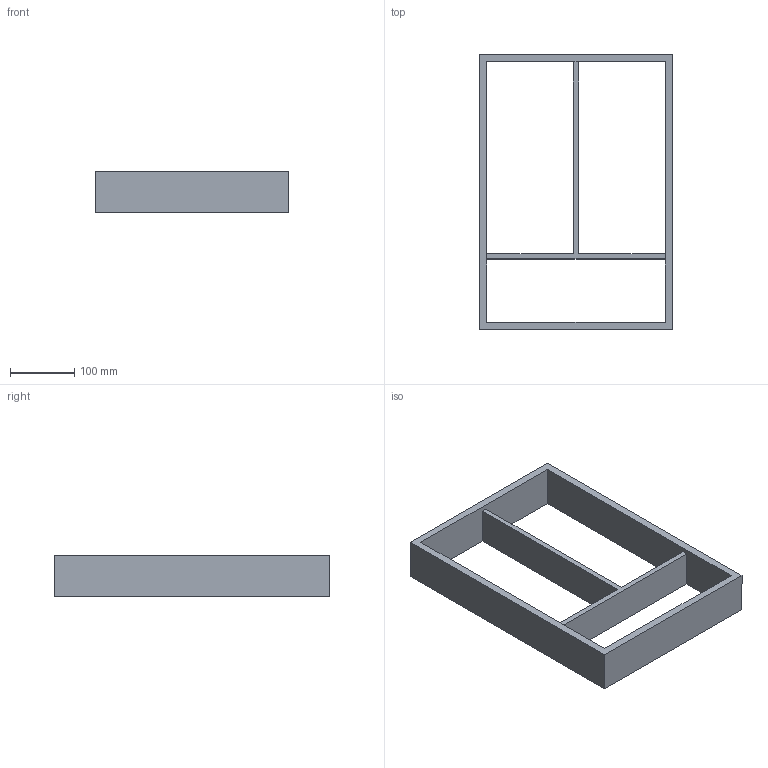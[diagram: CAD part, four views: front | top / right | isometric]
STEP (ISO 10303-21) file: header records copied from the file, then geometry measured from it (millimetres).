
FILE_DESCRIPTION (( 'STEP AP214' ), '1' );
FILE_NAME ('Vario Multi NL450_B400_19 mm_Alu.step', '2010-10-07T06:24:27', ( 'grass' ), ( '' ), 'SwSTEP 2.0', 'SolidWorks 2010', '' );
FILE_SCHEMA (( 'AUTOMOTIVE_DESIGN' ));
Length unit declared in the file: millimetre
Products named in the file (1): Vario Multi NL450_B400_19 mm_Alu
Bounding box: 302 x 429 x 65 mm (x, y, z)
Volume: 1365940.8 mm3; surface area: 290916 mm2
Topology: 1 solids, 1 shells, 16 faces, 48 edges, 32 vertices
Faces by surface type: plane 16
Entity records: 578 total; most frequent: CARTESIAN_POINT 97, ORIENTED_EDGE 96, DIRECTION 82, EDGE_CURVE 48, LINE 48, VECTOR 48, VERTEX_POINT 32, EDGE_LOOP 20
